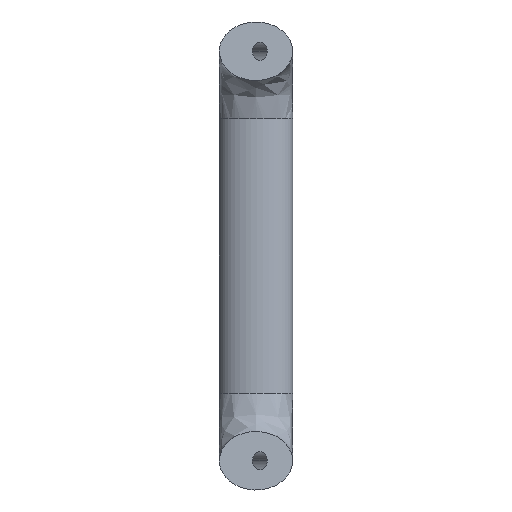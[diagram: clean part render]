
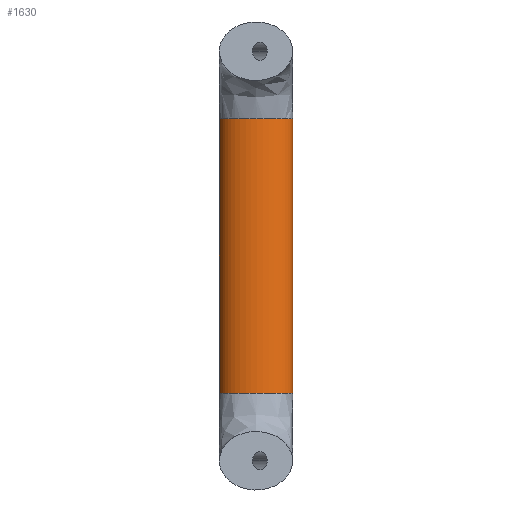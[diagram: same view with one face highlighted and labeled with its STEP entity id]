
A CAD part, front view. The second image highlights one B-rep face of the part: STEP entity #1630.
In plain terms, the highlighted free-form (B-spline) face has degree [3, 1] with [4, 2] control points.
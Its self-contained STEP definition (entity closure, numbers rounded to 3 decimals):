
#68 =( BOUNDED_CURVE ( )  B_SPLINE_CURVE ( 3, ( #912, #103, #505, #1312 ),
 .UNSPECIFIED., .F., .F. ) 
 B_SPLINE_CURVE_WITH_KNOTS ( ( 4, 4 ),
 ( 0., 3.142 ),
 .UNSPECIFIED. ) 
 CURVE ( )  GEOMETRIC_REPRESENTATION_ITEM ( )  RATIONAL_B_SPLINE_CURVE ( ( 1., 0.333, 0.333, 1. ) ) 
 REPRESENTATION_ITEM ( '' )  );
#103 = CARTESIAN_POINT ( 'NONE',  ( -10., -13., -37.5 ) ) ;
#197 =( BOUNDED_SURFACE ( )  B_SPLINE_SURFACE ( 3, 1, ( 
 ( #1310, #499 ),
 ( #1044, #636 ),
 ( #1305, #1442 ),
 ( #1323, #1449 ) ),
 .UNSPECIFIED., .F., .F., .T. ) 
 B_SPLINE_SURFACE_WITH_KNOTS ( ( 4, 4 ),
 ( 2, 2 ),
 ( 0., 1. ),
 ( 0., 1. ),
 .UNSPECIFIED. ) 
 GEOMETRIC_REPRESENTATION_ITEM ( )  RATIONAL_B_SPLINE_SURFACE ( (
 ( 1., 1.),
 ( 0.333, 0.333),
 ( 0.333, 0.333),
 ( 1., 1.) ) ) 
 REPRESENTATION_ITEM ( '' )  SURFACE ( )  );
#230 = CARTESIAN_POINT ( 'NONE',  ( 10., 0., -37.5 ) ) ;
#268 = CARTESIAN_POINT ( 'NONE',  ( 10., 0., 37.5 ) ) ;
#280 = VERTEX_POINT ( 'NONE', #230 ) ;
#298 = VERTEX_POINT ( 'NONE', #1307 ) ;
#301 = ORIENTED_EDGE ( 'NONE', *, *, #572, .T. ) ;
#354 = CARTESIAN_POINT ( 'NONE',  ( -10., 0., 37.5 ) ) ;
#373 = CARTESIAN_POINT ( 'NONE',  ( 10., 0., -37.5 ) ) ;
#431 = VECTOR ( 'NONE', #748, 1000. ) ;
#489 = LINE ( 'NONE', #1691, #431 ) ;
#499 = CARTESIAN_POINT ( 'NONE',  ( -10., 0., 37.5 ) ) ;
#505 = CARTESIAN_POINT ( 'NONE',  ( 10., -13., -37.5 ) ) ;
#572 = EDGE_CURVE ( 'NONE', #280, #829, #923, .T. ) ;
#602 = EDGE_LOOP ( 'NONE', ( #979, #301, #1250, #1377 ) ) ;
#636 = CARTESIAN_POINT ( 'NONE',  ( -10., -13., 37.5 ) ) ;
#748 = DIRECTION ( 'NONE',  ( 0., 0., 1. ) ) ;
#773 = CARTESIAN_POINT ( 'NONE',  ( 10., 0., 37.5 ) ) ;
#829 = VERTEX_POINT ( 'NONE', #268 ) ;
#912 = CARTESIAN_POINT ( 'NONE',  ( -10., 0., -37.5 ) ) ;
#915 = CARTESIAN_POINT ( 'NONE',  ( 10., -13., 37.5 ) ) ;
#923 = LINE ( 'NONE', #373, #1423 ) ;
#936 = DIRECTION ( 'NONE',  ( 0., 0., 1. ) ) ;
#979 = ORIENTED_EDGE ( 'NONE', *, *, #1550, .T. ) ;
#1044 = CARTESIAN_POINT ( 'NONE',  ( -10., -13., -37.5 ) ) ;
#1069 = FACE_OUTER_BOUND ( 'NONE', #602, .T. ) ;
#1250 = ORIENTED_EDGE ( 'NONE', *, *, #1640, .F. ) ;
#1305 = CARTESIAN_POINT ( 'NONE',  ( 10., -13., -37.5 ) ) ;
#1307 = CARTESIAN_POINT ( 'NONE',  ( -10., 0., -37.5 ) ) ;
#1310 = CARTESIAN_POINT ( 'NONE',  ( -10., 0., -37.5 ) ) ;
#1312 = CARTESIAN_POINT ( 'NONE',  ( 10., 0., -37.5 ) ) ;
#1315 = CARTESIAN_POINT ( 'NONE',  ( -10., -13., 37.5 ) ) ;
#1323 = CARTESIAN_POINT ( 'NONE',  ( 10., 0., -37.5 ) ) ;
#1377 = ORIENTED_EDGE ( 'NONE', *, *, #1594, .F. ) ;
#1380 = VERTEX_POINT ( 'NONE', #1557 ) ;
#1423 = VECTOR ( 'NONE', #936, 1000. ) ;
#1442 = CARTESIAN_POINT ( 'NONE',  ( 10., -13., 37.5 ) ) ;
#1449 = CARTESIAN_POINT ( 'NONE',  ( 10., 0., 37.5 ) ) ;
#1550 = EDGE_CURVE ( 'NONE', #298, #280, #68, .T. ) ;
#1557 = CARTESIAN_POINT ( 'NONE',  ( -10., 0., 37.5 ) ) ;
#1594 = EDGE_CURVE ( 'NONE', #298, #1380, #489, .T. ) ;
#1630 = ADVANCED_FACE ( 'NONE', ( #1069 ), #197, .T. ) ;
#1632 =( BOUNDED_CURVE ( )  B_SPLINE_CURVE ( 3, ( #354, #1315, #915, #773 ),
 .UNSPECIFIED., .F., .F. ) 
 B_SPLINE_CURVE_WITH_KNOTS ( ( 4, 4 ),
 ( 0., 3.142 ),
 .UNSPECIFIED. ) 
 CURVE ( )  GEOMETRIC_REPRESENTATION_ITEM ( )  RATIONAL_B_SPLINE_CURVE ( ( 1., 0.333, 0.333, 1. ) ) 
 REPRESENTATION_ITEM ( '' )  );
#1640 = EDGE_CURVE ( 'NONE', #1380, #829, #1632, .T. ) ;
#1691 = CARTESIAN_POINT ( 'NONE',  ( -10., 0., -37.5 ) ) ;
